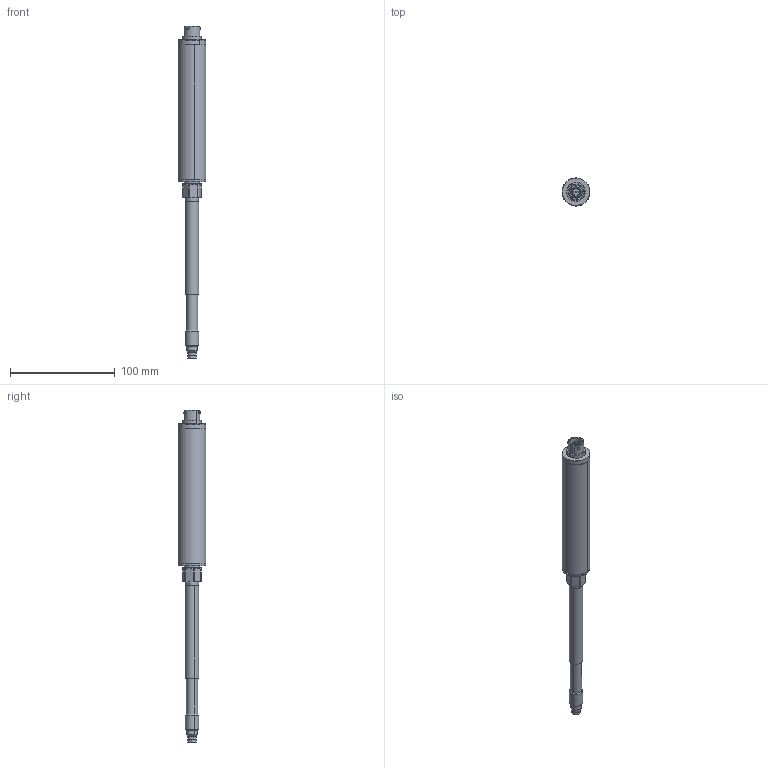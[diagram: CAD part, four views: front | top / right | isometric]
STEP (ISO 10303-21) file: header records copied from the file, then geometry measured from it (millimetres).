
FILE_DESCRIPTION (( 'STEP AP203' ), '1' );
FILE_NAME ('KE0-7-x-xxxx-1-4-0-x-P-E.STEP', '2021-02-10T09:20:02', ( '' ), ( '' ), 'SwSTEP 2.0', 'SolidWorks 2021', '' );
FILE_SCHEMA (( 'CONFIG_CONTROL_DESIGN' ));
Length unit declared in the file: millimetre
Products named in the file (1): KE0-7-x-xxxx-1-4-0-x-P-E
Bounding box: 26.5 x 26.5 x 316.67 mm (x, y, z)
Surface area: 20610.6 mm2 (no closed solid volume)
Topology: 0 solids, 16 shells, 112 faces, 262 edges, 166 vertices
Faces by surface type: cylinder 52, plane 28, cone 16, torus 16
Entity records: 3418 total; most frequent: CARTESIAN_POINT 695, DIRECTION 636, ORIENTED_EDGE 468, AXIS2_PLACEMENT_3D 275, EDGE_CURVE 262, VERTEX_POINT 166, CIRCLE 162, EDGE_LOOP 124
